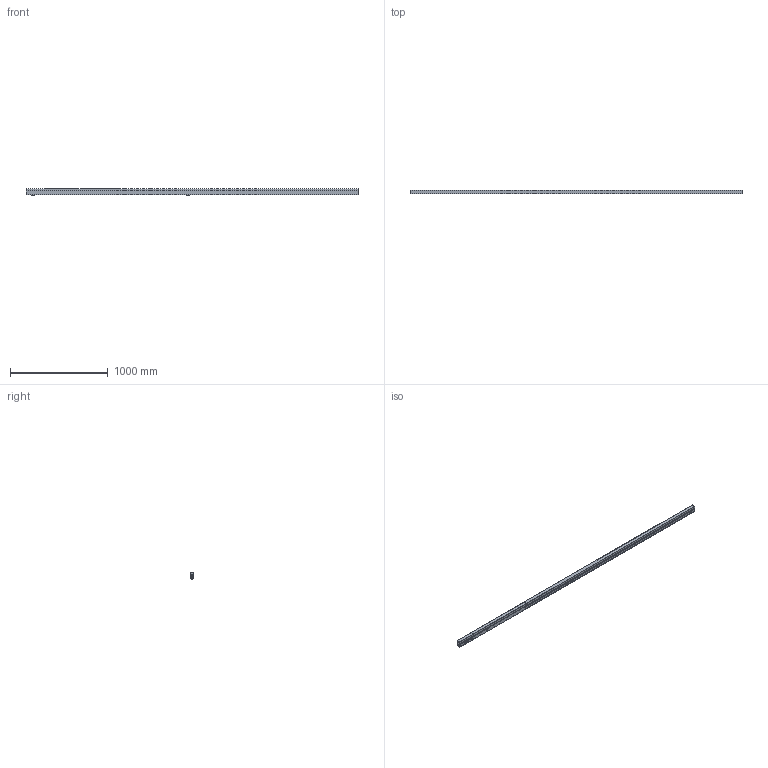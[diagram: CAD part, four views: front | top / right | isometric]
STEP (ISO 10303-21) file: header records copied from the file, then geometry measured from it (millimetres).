
FILE_DESCRIPTION(('STEP AP242'),'1');
FILE_NAME('OPO_65.084.03.stp','2026-02-23T17:28:00',(' '),(' '),'Spatial InterOp 3D',' ',' ');
FILE_SCHEMA(('AP242_MANAGED_MODEL_BASED_3D_ENGINEERING_MIM_LF {1 0 10303 442 1 1 4}'));
Length unit declared in the file: millimetre
Products named in the file (11): Zeichnung1; OPO_65.084.03_Magnetantrieb_Teil1; OPO_65.084.03_Magnetantrieb_Teil2; OPO_65.084.03_Magnetantrieb_Teil3; OPO_65.084.03_Magnetantrieb_Teil4; OPO_65.084.03_Magnetantrieb_Teil5; OPO_65.084.03_Magnetantrieb_Teil6; OPO_65.084.03_Magnetantrieb_Teil7; OPO_65.084.03_Magnetantrieb_Teil8; OPO_65.084.32; AutoCreatedBlock_10E
Assembly tree (11 placements, depth 2):
  Zeichnung1
    OPO_65.084.03_Magnetantrieb_Teil1
    OPO_65.084.03_Magnetantrieb_Teil2
    OPO_65.084.03_Magnetantrieb_Teil3
    OPO_65.084.03_Magnetantrieb_Teil4
    OPO_65.084.03_Magnetantrieb_Teil5  x2
    OPO_65.084.03_Magnetantrieb_Teil6
    OPO_65.084.03_Magnetantrieb_Teil7
    OPO_65.084.03_Magnetantrieb_Teil8
    OPO_65.084.32
    AutoCreatedBlock_10E
Bounding box: 3400 x 40 x 69.6 mm (x, y, z)
Volume: 2821862.3 mm3; surface area: 1691030.8 mm2
Topology: 54 solids, 54 shells, 1255 faces, 3309 edges, 2194 vertices
Faces by surface type: plane 772, cylinder 481, cone 2
Entity records: 46327 total; most frequent: CARTESIAN_POINT 6830, DIRECTION 6301, ORIENTED_EDGE 6158, EDGE_CURVE 3079, LINE 2155, VECTOR 2155, AXIS2_PLACEMENT_3D 2073, VERTEX_POINT 2042
